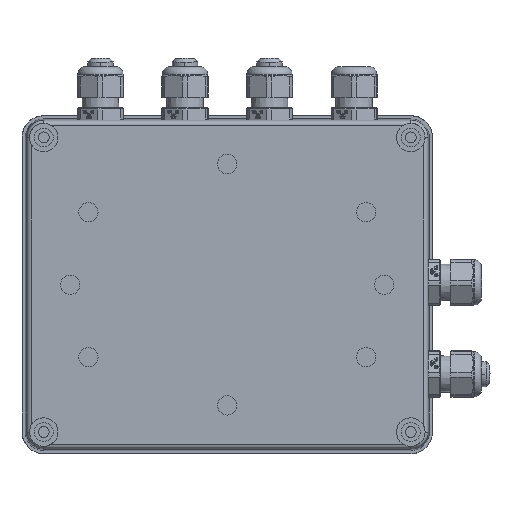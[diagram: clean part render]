
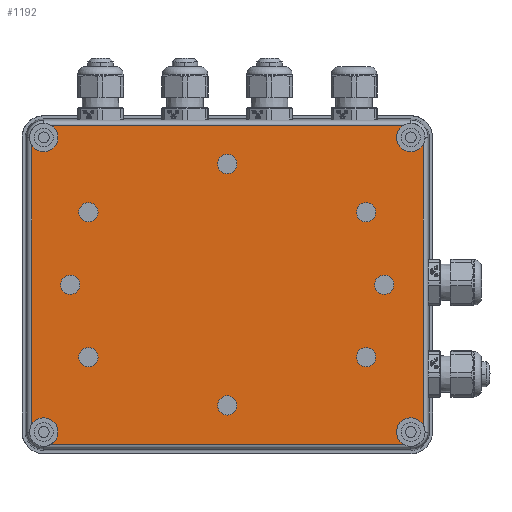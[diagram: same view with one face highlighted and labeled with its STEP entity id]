
A CAD part, front view. The second image highlights one B-rep face of the part: STEP entity #1192.
In plain terms, the highlighted planar face has unit normal (0, -1, 0).
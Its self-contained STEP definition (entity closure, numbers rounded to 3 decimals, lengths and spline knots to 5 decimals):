
#1192=ADVANCED_FACE('256:289',(#2721,#2722,#2723,#2724,#2725,#2726,#2727,#2728,#2729),#2730,.F.);
#2721=FACE_BOUND('',#4844,.T.);
#2722=FACE_BOUND('',#4845,.T.);
#2723=FACE_BOUND('',#4846,.T.);
#2724=FACE_BOUND('',#4847,.T.);
#2725=FACE_BOUND('',#4848,.T.);
#2726=FACE_BOUND('',#4849,.T.);
#2727=FACE_BOUND('',#4850,.T.);
#2728=FACE_BOUND('',#4851,.T.);
#2729=FACE_OUTER_BOUND('',#4852,.T.);
#2730=PLANE('',#4853);
#4844=EDGE_LOOP('',(#9485,#9486));
#4845=EDGE_LOOP('',(#9487,#9488));
#4846=EDGE_LOOP('',(#9489,#9490));
#4847=EDGE_LOOP('',(#9491,#9492));
#4848=EDGE_LOOP('',(#9493,#9494));
#4849=EDGE_LOOP('',(#9495,#9496));
#4850=EDGE_LOOP('',(#9497,#9498));
#4851=EDGE_LOOP('',(#9499,#9500));
#4852=EDGE_LOOP('',(#9501,#9502,#9503,#9504,#9505,#9506,#9507,#9508,#9509,#9510,#9511,#9512));
#4853=AXIS2_PLACEMENT_3D('',#9513,#9514,#9515);
#9485=ORIENTED_EDGE('',*,*,#15284,.T.);
#9486=ORIENTED_EDGE('',*,*,#14839,.T.);
#9487=ORIENTED_EDGE('',*,*,#15283,.T.);
#9488=ORIENTED_EDGE('',*,*,#14843,.T.);
#9489=ORIENTED_EDGE('',*,*,#15282,.T.);
#9490=ORIENTED_EDGE('',*,*,#14847,.T.);
#9491=ORIENTED_EDGE('',*,*,#15281,.T.);
#9492=ORIENTED_EDGE('',*,*,#14851,.T.);
#9493=ORIENTED_EDGE('',*,*,#15280,.T.);
#9494=ORIENTED_EDGE('',*,*,#14855,.T.);
#9495=ORIENTED_EDGE('',*,*,#15279,.T.);
#9496=ORIENTED_EDGE('',*,*,#14859,.T.);
#9497=ORIENTED_EDGE('',*,*,#15278,.T.);
#9498=ORIENTED_EDGE('',*,*,#14863,.T.);
#9499=ORIENTED_EDGE('',*,*,#15277,.T.);
#9500=ORIENTED_EDGE('',*,*,#14867,.T.);
#9501=ORIENTED_EDGE('',*,*,#14872,.F.);
#9502=ORIENTED_EDGE('',*,*,#15275,.T.);
#9503=ORIENTED_EDGE('',*,*,#15273,.F.);
#9504=ORIENTED_EDGE('',*,*,#14878,.F.);
#9505=ORIENTED_EDGE('',*,*,#15272,.T.);
#9506=ORIENTED_EDGE('',*,*,#14882,.F.);
#9507=ORIENTED_EDGE('',*,*,#15269,.F.);
#9508=ORIENTED_EDGE('',*,*,#15505,.T.);
#9509=ORIENTED_EDGE('',*,*,#14834,.F.);
#9510=ORIENTED_EDGE('',*,*,#15286,.F.);
#9511=ORIENTED_EDGE('',*,*,#15289,.T.);
#9512=ORIENTED_EDGE('',*,*,#15276,.F.);
#9513=CARTESIAN_POINT('',(-0.076,-0.075,-0.061));
#9514=DIRECTION('',(0.0,1.0,0.0));
#9515=DIRECTION('',(0.0,0.0,1.0));
#14834=EDGE_CURVE('256:1510',#17638,#17641,#17642,.T.);
#14839=EDGE_CURVE('256:1471',#17651,#17648,#17652,.T.);
#14843=EDGE_CURVE('256:751',#17659,#17656,#17660,.T.);
#14847=EDGE_CURVE('256:1474',#17667,#17664,#17668,.T.);
#14851=EDGE_CURVE('256:1477',#17675,#17672,#17676,.T.);
#14855=EDGE_CURVE('256:1480',#17683,#17680,#17684,.T.);
#14859=EDGE_CURVE('256:1483',#17691,#17688,#17692,.T.);
#14863=EDGE_CURVE('256:1486',#17699,#17696,#17700,.T.);
#14867=EDGE_CURVE('256:1489',#17707,#17704,#17708,.T.);
#14872=EDGE_CURVE('256:1492',#17715,#17717,#17718,.F.);
#14878=EDGE_CURVE('256:1498',#17727,#17729,#17730,.T.);
#14882=EDGE_CURVE('256:1504',#17734,#17737,#17738,.F.);
#15269=EDGE_CURVE('256:1504',#18391,#17734,#18393,.F.);
#15272=EDGE_CURVE('256:1501',#17727,#17737,#18397,.F.);
#15273=EDGE_CURVE('256:1498',#17729,#18159,#18398,.T.);
#15275=EDGE_CURVE('256:1495',#17715,#18159,#18400,.F.);
#15276=EDGE_CURVE('256:1492',#17717,#18177,#18401,.F.);
#15277=EDGE_CURVE('256:1489',#17704,#17707,#18402,.T.);
#15278=EDGE_CURVE('256:1486',#17696,#17699,#18403,.T.);
#15279=EDGE_CURVE('256:1483',#17688,#17691,#18404,.T.);
#15280=EDGE_CURVE('256:1480',#17680,#17683,#18405,.T.);
#15281=EDGE_CURVE('256:1477',#17672,#17675,#18406,.T.);
#15282=EDGE_CURVE('256:1474',#17664,#17667,#18407,.T.);
#15283=EDGE_CURVE('256:751',#17656,#17659,#18408,.T.);
#15284=EDGE_CURVE('256:1471',#17648,#17651,#18409,.T.);
#15286=EDGE_CURVE('256:1510',#18410,#17638,#18412,.T.);
#15289=EDGE_CURVE('256:1513',#18410,#18177,#18417,.F.);
#15505=EDGE_CURVE('256:1507',#18391,#17641,#18742,.F.);
#17638=VERTEX_POINT('',#22124);
#17641=VERTEX_POINT('',#22128);
#17642=CIRCLE('',#22129,0.0059);
#17648=VERTEX_POINT('',#22136);
#17651=VERTEX_POINT('',#22140);
#17652=CIRCLE('',#22141,0.004);
#17656=VERTEX_POINT('',#22146);
#17659=VERTEX_POINT('',#22150);
#17660=CIRCLE('',#22151,0.004);
#17664=VERTEX_POINT('',#22156);
#17667=VERTEX_POINT('',#22160);
#17668=CIRCLE('',#22161,0.004);
#17672=VERTEX_POINT('',#22166);
#17675=VERTEX_POINT('',#22170);
#17676=CIRCLE('',#22171,0.004);
#17680=VERTEX_POINT('',#22176);
#17683=VERTEX_POINT('',#22180);
#17684=CIRCLE('',#22181,0.004);
#17688=VERTEX_POINT('',#22186);
#17691=VERTEX_POINT('',#22190);
#17692=CIRCLE('',#22191,0.004);
#17696=VERTEX_POINT('',#22196);
#17699=VERTEX_POINT('',#22200);
#17700=CIRCLE('',#22201,0.004);
#17704=VERTEX_POINT('',#22206);
#17707=VERTEX_POINT('',#22210);
#17708=CIRCLE('',#22211,0.004);
#17715=VERTEX_POINT('',#22220);
#17717=VERTEX_POINT('',#22222);
#17718=CIRCLE('',#22223,0.0059);
#17727=VERTEX_POINT('',#22234);
#17729=VERTEX_POINT('',#22236);
#17730=CIRCLE('',#22237,0.0059);
#17734=VERTEX_POINT('',#22242);
#17737=VERTEX_POINT('',#22246);
#17738=CIRCLE('',#22247,0.0059);
#18159=VERTEX_POINT('',#22782);
#18177=VERTEX_POINT('',#22801);
#18391=VERTEX_POINT('',#23104);
#18393=CIRCLE('',#23106,0.0059);
#18397=LINE('',#23111,#23112);
#18398=CIRCLE('',#23113,0.0059);
#18400=LINE('',#23116,#23117);
#18401=CIRCLE('',#23118,0.0059);
#18402=CIRCLE('',#23119,0.004);
#18403=CIRCLE('',#23120,0.004);
#18404=CIRCLE('',#23121,0.004);
#18405=CIRCLE('',#23122,0.004);
#18406=CIRCLE('',#23123,0.004);
#18407=CIRCLE('',#23124,0.004);
#18408=CIRCLE('',#23125,0.004);
#18409=CIRCLE('',#23126,0.004);
#18410=VERTEX_POINT('',#23127);
#18412=CIRCLE('',#23129,0.0059);
#18417=LINE('',#23135,#23136);
#18742=LINE('',#23637,#23638);
#22124=CARTESIAN_POINT('',(0.076,-0.075,-0.0551));
#22128=CARTESIAN_POINT('',(0.07297,-0.075,-0.06606));
#22129=AXIS2_PLACEMENT_3D('',#27972,#27973,#27974);
#22136=CARTESIAN_POINT('',(0.0575,-0.075,-0.026));
#22140=CARTESIAN_POINT('',(0.0575,-0.075,-0.034));
#22141=AXIS2_PLACEMENT_3D('',#27983,#27984,#27985);
#22146=CARTESIAN_POINT('',(-0.0575,-0.075,-0.026));
#22150=CARTESIAN_POINT('',(-0.0575,-0.075,-0.034));
#22151=AXIS2_PLACEMENT_3D('',#27991,#27992,#27993);
#22156=CARTESIAN_POINT('',(-0.0575,-0.075,0.034));
#22160=CARTESIAN_POINT('',(-0.0575,-0.075,0.026));
#22161=AXIS2_PLACEMENT_3D('',#27999,#28000,#28001);
#22166=CARTESIAN_POINT('',(0.,-0.075,-0.046));
#22170=CARTESIAN_POINT('',(0.,-0.075,-0.054));
#22171=AXIS2_PLACEMENT_3D('',#28007,#28008,#28009);
#22176=CARTESIAN_POINT('',(0.0,-0.075,0.054));
#22180=CARTESIAN_POINT('',(0.,-0.075,0.046));
#22181=AXIS2_PLACEMENT_3D('',#28015,#28016,#28017);
#22186=CARTESIAN_POINT('',(0.0575,-0.075,0.034));
#22190=CARTESIAN_POINT('',(0.0575,-0.075,0.026));
#22191=AXIS2_PLACEMENT_3D('',#28023,#28024,#28025);
#22196=CARTESIAN_POINT('',(0.065,-0.075,0.004));
#22200=CARTESIAN_POINT('',(0.065,-0.075,-0.004));
#22201=AXIS2_PLACEMENT_3D('',#28031,#28032,#28033);
#22206=CARTESIAN_POINT('',(-0.065,-0.075,0.004));
#22210=CARTESIAN_POINT('',(-0.065,-0.075,-0.004));
#22211=AXIS2_PLACEMENT_3D('',#28039,#28040,#28041);
#22220=CARTESIAN_POINT('',(0.07297,-0.075,0.06606));
#22222=CARTESIAN_POINT('',(0.076,-0.075,0.0551));
#22223=AXIS2_PLACEMENT_3D('',#28050,#28051,#28052);
#22234=CARTESIAN_POINT('',(-0.08106,-0.075,0.05797));
#22236=CARTESIAN_POINT('',(-0.076,-0.075,0.0551));
#22237=AXIS2_PLACEMENT_3D('',#28064,#28065,#28066);
#22242=CARTESIAN_POINT('',(-0.076,-0.075,-0.0551));
#22246=CARTESIAN_POINT('',(-0.08106,-0.075,-0.05797));
#22247=AXIS2_PLACEMENT_3D('',#28072,#28073,#28074);
#22782=CARTESIAN_POINT('',(-0.07297,-0.075,0.06606));
#22801=CARTESIAN_POINT('',(0.08106,-0.075,0.05797));
#23104=CARTESIAN_POINT('',(-0.07297,-0.075,-0.06606));
#23106=AXIS2_PLACEMENT_3D('',#28825,#28826,#28827);
#23111=CARTESIAN_POINT('',(-0.08106,-0.075,-0.061));
#23112=VECTOR('',#28832,1.0);
#23113=AXIS2_PLACEMENT_3D('',#28833,#28834,#28835);
#23116=CARTESIAN_POINT('',(-0.076,-0.075,0.06606));
#23117=VECTOR('',#28837,1.0);
#23118=AXIS2_PLACEMENT_3D('',#28838,#28839,#28840);
#23119=AXIS2_PLACEMENT_3D('',#28841,#28842,#28843);
#23120=AXIS2_PLACEMENT_3D('',#28844,#28845,#28846);
#23121=AXIS2_PLACEMENT_3D('',#28847,#28848,#28849);
#23122=AXIS2_PLACEMENT_3D('',#28850,#28851,#28852);
#23123=AXIS2_PLACEMENT_3D('',#28853,#28854,#28855);
#23124=AXIS2_PLACEMENT_3D('',#28856,#28857,#28858);
#23125=AXIS2_PLACEMENT_3D('',#28859,#28860,#28861);
#23126=AXIS2_PLACEMENT_3D('',#28862,#28863,#28864);
#23127=CARTESIAN_POINT('',(0.08106,-0.075,-0.05797));
#23129=AXIS2_PLACEMENT_3D('',#28868,#28869,#28870);
#23135=CARTESIAN_POINT('',(0.08106,-0.075,0.061));
#23136=VECTOR('',#28875,1.0);
#23637=CARTESIAN_POINT('',(0.076,-0.075,-0.06606));
#23638=VECTOR('',#29169,1.0);
#27972=CARTESIAN_POINT('',(0.076,-0.075,-0.061));
#27973=DIRECTION('',(0.0,-1.0,0.0));
#27974=DIRECTION('',(1.0,0.0,0.0));
#27983=CARTESIAN_POINT('',(0.0575,-0.075,-0.03));
#27984=DIRECTION('',(0.0,1.0,0.0));
#27985=DIRECTION('',(0.0,0.0,1.0));
#27991=CARTESIAN_POINT('',(-0.0575,-0.075,-0.03));
#27992=DIRECTION('',(0.0,1.0,0.0));
#27993=DIRECTION('',(0.0,0.0,1.0));
#27999=CARTESIAN_POINT('',(-0.0575,-0.075,0.03));
#28000=DIRECTION('',(0.0,1.0,0.0));
#28001=DIRECTION('',(0.0,0.0,1.0));
#28007=CARTESIAN_POINT('',(0.,-0.075,-0.05));
#28008=DIRECTION('',(0.0,1.0,0.0));
#28009=DIRECTION('',(0.0,0.0,1.0));
#28015=CARTESIAN_POINT('',(0.0,-0.075,0.05));
#28016=DIRECTION('',(0.0,1.0,0.0));
#28017=DIRECTION('',(0.0,0.0,1.0));
#28023=CARTESIAN_POINT('',(0.0575,-0.075,0.03));
#28024=DIRECTION('',(0.0,1.0,0.0));
#28025=DIRECTION('',(0.0,0.0,1.0));
#28031=CARTESIAN_POINT('',(0.065,-0.075,0.0));
#28032=DIRECTION('',(0.0,1.0,0.0));
#28033=DIRECTION('',(0.0,0.0,1.0));
#28039=CARTESIAN_POINT('',(-0.065,-0.075,0.));
#28040=DIRECTION('',(0.0,1.0,0.0));
#28041=DIRECTION('',(0.0,0.0,1.0));
#28050=CARTESIAN_POINT('',(0.076,-0.075,0.061));
#28051=DIRECTION('',(0.0,1.0,0.0));
#28052=DIRECTION('',(-1.0,0.0,0.0));
#28064=CARTESIAN_POINT('',(-0.076,-0.075,0.061));
#28065=DIRECTION('',(0.0,-1.0,0.0));
#28066=DIRECTION('',(1.0,0.0,0.0));
#28072=CARTESIAN_POINT('',(-0.076,-0.075,-0.061));
#28073=DIRECTION('',(0.0,1.0,0.0));
#28074=DIRECTION('',(-1.0,0.0,0.0));
#28825=CARTESIAN_POINT('',(-0.076,-0.075,-0.061));
#28826=DIRECTION('',(0.0,1.0,0.0));
#28827=DIRECTION('',(-1.0,0.0,0.0));
#28832=DIRECTION('',(0.0,0.0,1.0));
#28833=CARTESIAN_POINT('',(-0.076,-0.075,0.061));
#28834=DIRECTION('',(0.0,-1.0,0.0));
#28835=DIRECTION('',(1.0,0.0,0.0));
#28837=DIRECTION('',(1.0,0.0,0.0));
#28838=CARTESIAN_POINT('',(0.076,-0.075,0.061));
#28839=DIRECTION('',(0.0,1.0,0.0));
#28840=DIRECTION('',(-1.0,0.0,0.0));
#28841=CARTESIAN_POINT('',(-0.065,-0.075,0.));
#28842=DIRECTION('',(0.0,1.0,0.0));
#28843=DIRECTION('',(0.0,0.0,1.0));
#28844=CARTESIAN_POINT('',(0.065,-0.075,0.0));
#28845=DIRECTION('',(0.0,1.0,0.0));
#28846=DIRECTION('',(0.0,0.0,1.0));
#28847=CARTESIAN_POINT('',(0.0575,-0.075,0.03));
#28848=DIRECTION('',(0.0,1.0,0.0));
#28849=DIRECTION('',(0.0,0.0,1.0));
#28850=CARTESIAN_POINT('',(0.0,-0.075,0.05));
#28851=DIRECTION('',(0.0,1.0,0.0));
#28852=DIRECTION('',(0.0,0.0,1.0));
#28853=CARTESIAN_POINT('',(0.,-0.075,-0.05));
#28854=DIRECTION('',(0.0,1.0,0.0));
#28855=DIRECTION('',(0.0,0.0,1.0));
#28856=CARTESIAN_POINT('',(-0.0575,-0.075,0.03));
#28857=DIRECTION('',(0.0,1.0,0.0));
#28858=DIRECTION('',(0.0,0.0,1.0));
#28859=CARTESIAN_POINT('',(-0.0575,-0.075,-0.03));
#28860=DIRECTION('',(0.0,1.0,0.0));
#28861=DIRECTION('',(0.0,0.0,1.0));
#28862=CARTESIAN_POINT('',(0.0575,-0.075,-0.03));
#28863=DIRECTION('',(0.0,1.0,0.0));
#28864=DIRECTION('',(0.0,0.0,1.0));
#28868=CARTESIAN_POINT('',(0.076,-0.075,-0.061));
#28869=DIRECTION('',(0.0,-1.0,0.0));
#28870=DIRECTION('',(1.0,0.0,0.0));
#28875=DIRECTION('',(0.,0.0,-1.0));
#29169=DIRECTION('',(-1.0,0.0,0.));
